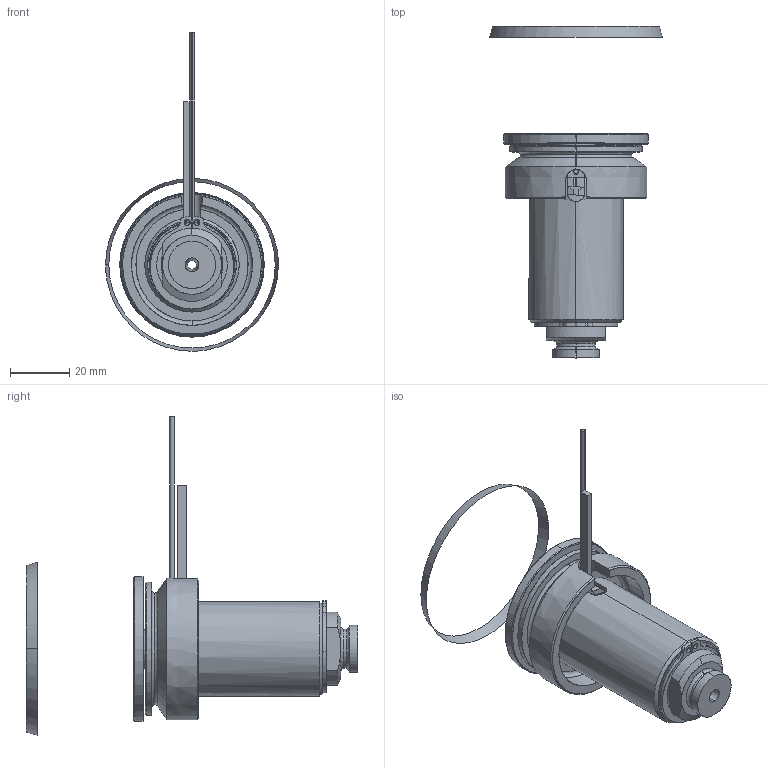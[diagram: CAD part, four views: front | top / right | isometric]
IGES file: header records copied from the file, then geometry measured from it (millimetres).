
Start section: SolidWorks IGES file using analytic representation for surfaces
Global section: file name: C:\Documents and Settings\ws-20\Desktop\TEMPORANEA\UGBE5001-S-A-5 [Ød-3.0 P-0 ØC-13].IGS; native system: SolidWorks 2012; preprocessor: SolidWorks 2012; author: ws-20; date: 120306.161519; units: millimetre
Bounding box: 58.57 x 112.44 x 107.94 mm (x, y, z)
Surface area: 31542.2 mm2 (no closed solid volume)
Topology: 0 solids, 0 shells, 113 faces, 2184 edges, 2184 vertices
Faces by surface type: revolution 68, bspline 45
